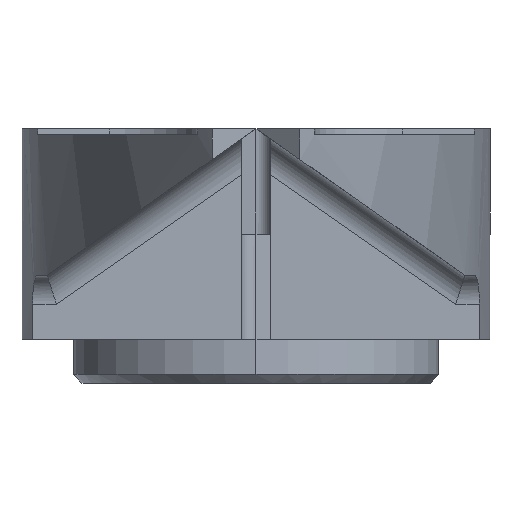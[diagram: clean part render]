
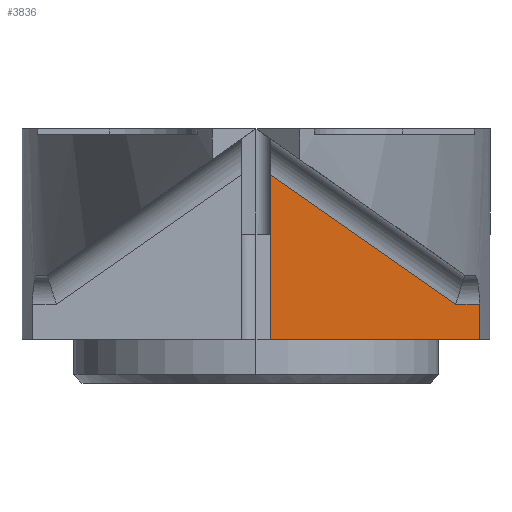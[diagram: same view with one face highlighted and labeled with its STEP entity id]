
A CAD part, left-side view. The second image highlights one B-rep face of the part: STEP entity #3836.
In plain terms, the highlighted planar face has unit normal (1, 0, 0).
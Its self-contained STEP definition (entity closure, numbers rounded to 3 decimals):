
#88 = EDGE_CURVE ( 'NONE', #1588, #2840, #1028, .T. ) ;
#231 = ORIENTED_EDGE ( 'NONE', *, *, #1696, .F. ) ;
#432 = CARTESIAN_POINT ( 'NONE',  ( -10., -0.5, -1.571 ) ) ;
#830 = VERTEX_POINT ( 'NONE', #1251 ) ;
#920 = EDGE_CURVE ( 'NONE', #1157, #830, #4192, .T. ) ;
#999 = DIRECTION ( 'NONE',  ( -1., 0., 0. ) ) ;
#1028 = LINE ( 'NONE', #2193, #1850 ) ;
#1121 = CARTESIAN_POINT ( 'NONE',  ( -10., -0.5, -7.2 ) ) ;
#1157 = VERTEX_POINT ( 'NONE', #3328 ) ;
#1251 = CARTESIAN_POINT ( 'NONE',  ( -10., -7.638, -6. ) ) ;
#1255 = ORIENTED_EDGE ( 'NONE', *, *, #3883, .T. ) ;
#1346 = EDGE_LOOP ( 'NONE', ( #231, #1724, #3962, #1255, #2043 ) ) ;
#1356 = DIRECTION ( 'NONE',  ( 0., 0., 1. ) ) ;
#1377 = VECTOR ( 'NONE', #3368, 1000. ) ;
#1575 = VERTEX_POINT ( 'NONE', #1121 ) ;
#1588 = VERTEX_POINT ( 'NONE', #3018 ) ;
#1617 = DIRECTION ( 'NONE',  ( 0., 1., 0. ) ) ;
#1645 = LINE ( 'NONE', #2375, #2531 ) ;
#1696 = EDGE_CURVE ( 'NONE', #830, #1588, #3151, .T. ) ;
#1724 = ORIENTED_EDGE ( 'NONE', *, *, #920, .F. ) ;
#1842 = DIRECTION ( 'NONE',  ( 0., 0., 1. ) ) ;
#1850 = VECTOR ( 'NONE', #3790, 1000. ) ;
#1888 = CARTESIAN_POINT ( 'NONE',  ( -10., -4.069, -6. ) ) ;
#2043 = ORIENTED_EDGE ( 'NONE', *, *, #88, .F. ) ;
#2193 = CARTESIAN_POINT ( 'NONE',  ( -10., 0.785, -0.671 ) ) ;
#2286 = VECTOR ( 'NONE', #1617, 1000. ) ;
#2288 = CARTESIAN_POINT ( 'NONE',  ( -10., -4., -7.2 ) ) ;
#2375 = CARTESIAN_POINT ( 'NONE',  ( -10., -0.5, -3.6 ) ) ;
#2531 = VECTOR ( 'NONE', #1356, 1000. ) ;
#2673 = PLANE ( 'NONE',  #4067 ) ;
#2731 = FACE_OUTER_BOUND ( 'NONE', #1346, .T. ) ;
#2840 = VERTEX_POINT ( 'NONE', #432 ) ;
#3018 = CARTESIAN_POINT ( 'NONE',  ( -10., -6.825, -6. ) ) ;
#3146 = LINE ( 'NONE', #2288, #2286 ) ;
#3151 = LINE ( 'NONE', #1888, #1377 ) ;
#3216 = VECTOR ( 'NONE', #1842, 1000. ) ;
#3328 = CARTESIAN_POINT ( 'NONE',  ( -10., -7.638, -7.2 ) ) ;
#3340 = DIRECTION ( 'NONE',  ( 0., 0., 1. ) ) ;
#3368 = DIRECTION ( 'NONE',  ( 0., 1., 0. ) ) ;
#3661 = CARTESIAN_POINT ( 'NONE',  ( -10., -8.352, -7.763 ) ) ;
#3667 = EDGE_CURVE ( 'NONE', #1157, #1575, #3146, .T. ) ;
#3790 = DIRECTION ( 'NONE',  ( 0., 0.819, 0.574 ) ) ;
#3836 = ADVANCED_FACE ( 'NONE', ( #2731 ), #2673, .F. ) ;
#3883 = EDGE_CURVE ( 'NONE', #1575, #2840, #1645, .T. ) ;
#3962 = ORIENTED_EDGE ( 'NONE', *, *, #3667, .T. ) ;
#4067 = AXIS2_PLACEMENT_3D ( 'NONE', #3661, #999, #3340 ) ;
#4156 = CARTESIAN_POINT ( 'NONE',  ( -10., -7.638, -4.385 ) ) ;
#4192 = LINE ( 'NONE', #4156, #3216 ) ;
